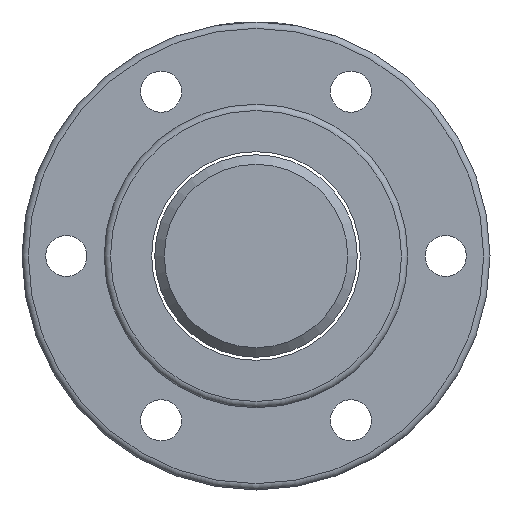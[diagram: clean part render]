
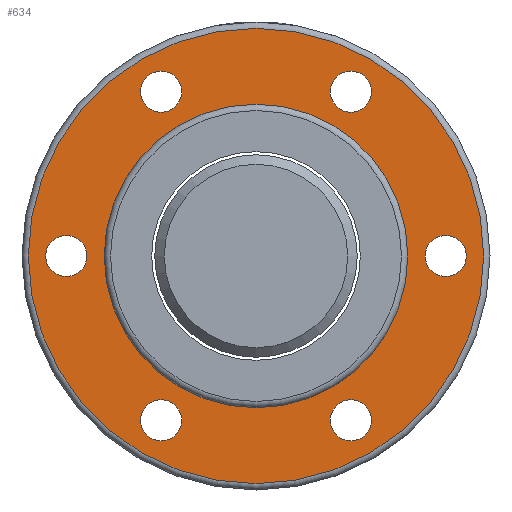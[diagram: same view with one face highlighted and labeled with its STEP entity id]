
A CAD part, left-side view. The second image highlights one B-rep face of the part: STEP entity #634.
In plain terms, the highlighted planar face has unit normal (-1, 0, 0).
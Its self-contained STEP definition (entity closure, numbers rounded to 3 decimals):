
#99=PLANE('',#749);
#170=ORIENTED_EDGE('',*,*,#270,.T.);
#171=ORIENTED_EDGE('',*,*,#271,.F.);
#172=ORIENTED_EDGE('',*,*,#267,.T.);
#173=ORIENTED_EDGE('',*,*,#263,.T.);
#174=ORIENTED_EDGE('',*,*,#259,.T.);
#175=ORIENTED_EDGE('',*,*,#255,.T.);
#176=ORIENTED_EDGE('',*,*,#251,.T.);
#177=ORIENTED_EDGE('',*,*,#247,.T.);
#247=EDGE_CURVE('',#308,#308,#360,.T.);
#251=EDGE_CURVE('',#312,#312,#364,.T.);
#255=EDGE_CURVE('',#316,#316,#368,.T.);
#259=EDGE_CURVE('',#320,#320,#372,.T.);
#263=EDGE_CURVE('',#324,#324,#376,.T.);
#267=EDGE_CURVE('',#328,#328,#380,.T.);
#270=EDGE_CURVE('',#331,#331,#383,.T.);
#271=EDGE_CURVE('',#332,#332,#384,.T.);
#308=VERTEX_POINT('',#1051);
#312=VERTEX_POINT('',#1062);
#316=VERTEX_POINT('',#1073);
#320=VERTEX_POINT('',#1084);
#324=VERTEX_POINT('',#1095);
#328=VERTEX_POINT('',#1106);
#331=VERTEX_POINT('',#1115);
#332=VERTEX_POINT('',#1118);
#360=CIRCLE('',#707,3.25);
#364=CIRCLE('',#714,3.25);
#368=CIRCLE('',#721,3.25);
#372=CIRCLE('',#728,3.25);
#376=CIRCLE('',#735,3.25);
#380=CIRCLE('',#742,3.25);
#383=CIRCLE('',#748,24.);
#384=CIRCLE('',#750,36.);
#455=EDGE_LOOP('',(#170));
#456=EDGE_LOOP('',(#171));
#457=EDGE_LOOP('',(#172));
#458=EDGE_LOOP('',(#173));
#459=EDGE_LOOP('',(#174));
#460=EDGE_LOOP('',(#175));
#461=EDGE_LOOP('',(#176));
#462=EDGE_LOOP('',(#177));
#558=FACE_BOUND('',#455,.T.);
#559=FACE_BOUND('',#456,.T.);
#560=FACE_BOUND('',#457,.T.);
#561=FACE_BOUND('',#458,.T.);
#562=FACE_BOUND('',#459,.T.);
#563=FACE_BOUND('',#460,.T.);
#564=FACE_BOUND('',#461,.T.);
#565=FACE_BOUND('',#462,.T.);
#634=ADVANCED_FACE('',(#558,#559,#560,#561,#562,#563,#564,#565),#99,.F.);
#707=AXIS2_PLACEMENT_3D('',#1050,#838,#839);
#714=AXIS2_PLACEMENT_3D('',#1061,#852,#853);
#721=AXIS2_PLACEMENT_3D('',#1072,#866,#867);
#728=AXIS2_PLACEMENT_3D('',#1083,#880,#881);
#735=AXIS2_PLACEMENT_3D('',#1094,#894,#895);
#742=AXIS2_PLACEMENT_3D('',#1105,#908,#909);
#748=AXIS2_PLACEMENT_3D('',#1114,#920,#921);
#749=AXIS2_PLACEMENT_3D('',#1116,#922,#923);
#750=AXIS2_PLACEMENT_3D('',#1117,#924,#925);
#838=DIRECTION('',(1.,0.,0.));
#839=DIRECTION('',(0.,0.,-1.));
#852=DIRECTION('',(1.,0.,0.));
#853=DIRECTION('',(0.,0.,-1.));
#866=DIRECTION('',(1.,0.,0.));
#867=DIRECTION('',(0.,0.,-1.));
#880=DIRECTION('',(1.,0.,0.));
#881=DIRECTION('',(0.,0.,-1.));
#894=DIRECTION('',(1.,0.,0.));
#895=DIRECTION('',(0.,0.,-1.));
#908=DIRECTION('',(1.,0.,0.));
#909=DIRECTION('',(0.,0.,-1.));
#920=DIRECTION('',(1.,0.,0.));
#921=DIRECTION('',(0.,0.,-1.));
#922=DIRECTION('',(1.,0.,0.));
#923=DIRECTION('',(0.,0.,-1.));
#924=DIRECTION('',(1.,0.,0.));
#925=DIRECTION('',(0.,0.,-1.));
#1050=CARTESIAN_POINT('',(-27.,15.,-25.981));
#1051=CARTESIAN_POINT('',(-27.,15.,-29.231));
#1061=CARTESIAN_POINT('',(-27.,-15.,-25.981));
#1062=CARTESIAN_POINT('',(-27.,-15.,-29.231));
#1072=CARTESIAN_POINT('',(-27.,-30.,0.));
#1073=CARTESIAN_POINT('',(-27.,-30.,-3.25));
#1083=CARTESIAN_POINT('',(-27.,-15.,25.981));
#1084=CARTESIAN_POINT('',(-27.,-15.,22.731));
#1094=CARTESIAN_POINT('',(-27.,15.,25.981));
#1095=CARTESIAN_POINT('',(-27.,15.,22.731));
#1105=CARTESIAN_POINT('',(-27.,30.,0.));
#1106=CARTESIAN_POINT('',(-27.,30.,-3.25));
#1114=CARTESIAN_POINT('',(-27.,0.,0.));
#1115=CARTESIAN_POINT('',(-27.,0.,-24.));
#1116=CARTESIAN_POINT('',(-27.,30.,0.));
#1117=CARTESIAN_POINT('',(-27.,0.,0.));
#1118=CARTESIAN_POINT('',(-27.,0.,-36.));
